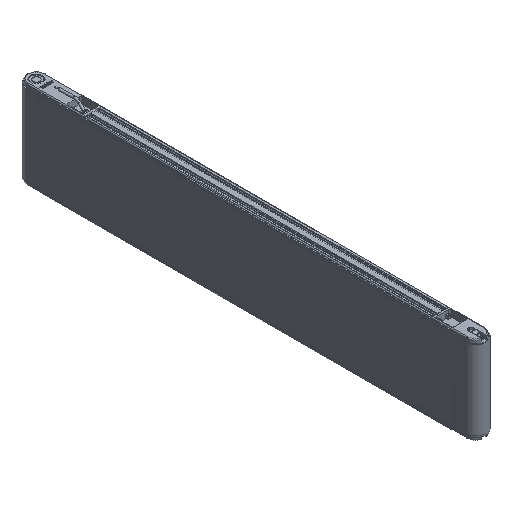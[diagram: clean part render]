
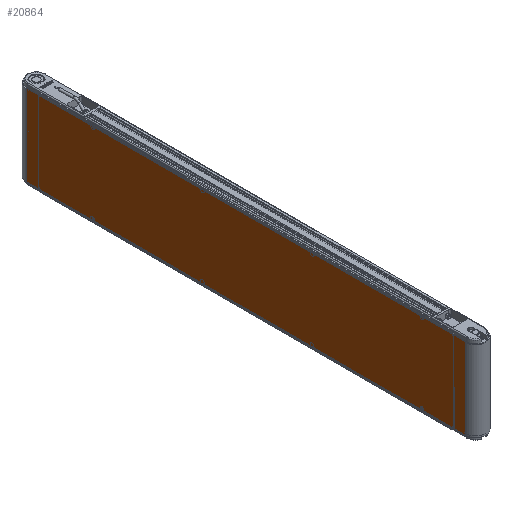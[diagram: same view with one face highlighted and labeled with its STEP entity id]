
A CAD part, isometric view. The second image highlights one B-rep face of the part: STEP entity #20864.
In plain terms, the highlighted planar face has unit normal (-1, 0, 0).
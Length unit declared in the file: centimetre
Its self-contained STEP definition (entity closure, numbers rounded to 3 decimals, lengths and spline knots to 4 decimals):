
#2220=FACE_OUTER_BOUND('',#3370,.T.);
#3370=EDGE_LOOP('',(#14062,#14063,#14064,#14065));
#4788=LINE('',#30797,#6409);
#4789=LINE('',#30802,#6410);
#4791=LINE('',#30806,#6412);
#4792=LINE('',#30807,#6413);
#6409=VECTOR('',#25162,1.);
#6410=VECTOR('',#25167,1.);
#6412=VECTOR('',#25171,1.);
#6413=VECTOR('',#25172,1.);
#8239=VERTEX_POINT('',#30791);
#8241=VERTEX_POINT('',#30795);
#8243=VERTEX_POINT('',#30800);
#8244=VERTEX_POINT('',#30805);
#10490=EDGE_CURVE('',#8239,#8241,#4788,.T.);
#10492=EDGE_CURVE('',#8243,#8241,#4789,.T.);
#10494=EDGE_CURVE('',#8243,#8244,#4791,.T.);
#10495=EDGE_CURVE('',#8244,#8239,#4792,.T.);
#14062=ORIENTED_EDGE('',*,*,#10494,.T.);
#14063=ORIENTED_EDGE('',*,*,#10495,.T.);
#14064=ORIENTED_EDGE('',*,*,#10490,.T.);
#14065=ORIENTED_EDGE('',*,*,#10492,.F.);
#19107=PLANE('',#22301);
#20864=ADVANCED_FACE('',(#2220),#19107,.T.);
#22301=AXIS2_PLACEMENT_3D('',#30804,#25169,#25170);
#25162=DIRECTION('',(0.,1.,0.));
#25167=DIRECTION('',(0.,0.,1.));
#25169=DIRECTION('center_axis',(-1.,0.,0.));
#25170=DIRECTION('ref_axis',(0.,0.,
1.));
#25171=DIRECTION('',(0.,-1.,0.));
#25172=DIRECTION('',(0.,0.,1.));
#30791=CARTESIAN_POINT('',(-2.33,-87.,9.25));
#30795=CARTESIAN_POINT('',(-2.33,13.,9.25));
#30797=CARTESIAN_POINT('',(-2.33,13.,9.25));
#30800=CARTESIAN_POINT('',(-2.33,13.,-9.25));
#30802=CARTESIAN_POINT('',(-2.33,13.,0.));
#30804=CARTESIAN_POINT('Origin',(-2.33,13.,0.));
#30805=CARTESIAN_POINT('',(-2.33,-87.,-9.25));
#30806=CARTESIAN_POINT('',(-2.33,13.,-9.25));
#30807=CARTESIAN_POINT('',(-2.33,-87.,0.));
